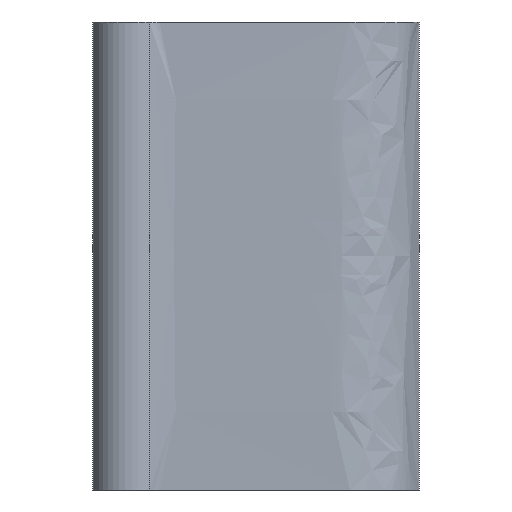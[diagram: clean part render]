
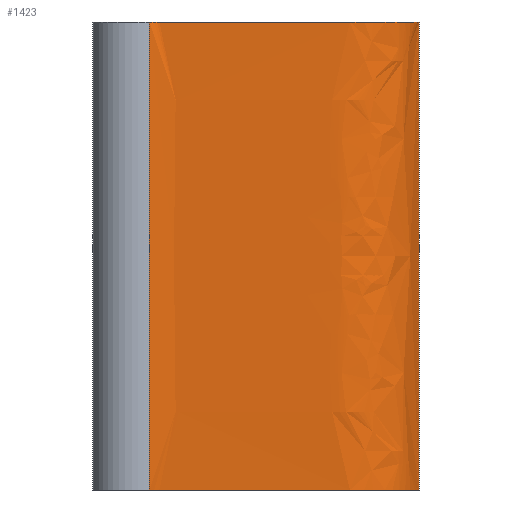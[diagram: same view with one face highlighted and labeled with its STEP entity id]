
A CAD part, front view. The second image highlights one B-rep face of the part: STEP entity #1423.
In plain terms, the highlighted free-form (B-spline) face has degree [3, 1] with [12, 2] control points.
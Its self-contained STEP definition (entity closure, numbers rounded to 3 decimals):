
#23 = CARTESIAN_POINT ( 'NONE',  ( 12.063, -6.04, 0. ) ) ;
#42 = CARTESIAN_POINT ( 'NONE',  ( 50.745, -5.171, 0. ) ) ;
#51 = CARTESIAN_POINT ( 'NONE',  ( 61.743, 7.763, -100. ) ) ;
#57 = CARTESIAN_POINT ( 'NONE',  ( 61.743, 7.763, 0. ) ) ;
#71 = CARTESIAN_POINT ( 'NONE',  ( 59.99, 2.662, 0. ) ) ;
#137 = B_SPLINE_CURVE_WITH_KNOTS ( 'NONE', 3,
 ( #457, #768, #1210, #352, #641, #801, #1808, #1540, #676, #1740, #1759, #1110 ),
 .UNSPECIFIED., .F., .F.,
 ( 4, 1, 1, 1, 1, 1, 1, 1, 1, 4 ),
 ( 0., 0.064, 0.116, 0.392, 0.641, 0.677, 0.756, 0.834, 0.921, 0.984 ),
 .UNSPECIFIED. ) ;
#141 = CARTESIAN_POINT ( 'NONE',  ( 6.313, -5.974, 0. ) ) ;
#159 = EDGE_CURVE ( 'NONE', #1619, #1756, #1711, .T. ) ;
#169 = CARTESIAN_POINT ( 'NONE',  ( 4.124, -6.855, 0. ) ) ;
#173 = CARTESIAN_POINT ( 'NONE',  ( 46.028, -6.02, -100. ) ) ;
#177 = CARTESIAN_POINT ( 'NONE',  ( 46.028, -6.02, 0. ) ) ;
#194 = CARTESIAN_POINT ( 'NONE',  ( 6.313, -5.974, -100. ) ) ;
#203 = DIRECTION ( 'NONE',  ( 0., 0., 1. ) ) ;
#215 = CARTESIAN_POINT ( 'NONE',  ( 61.743, 7.763, -100. ) ) ;
#216 = EDGE_LOOP ( 'NONE', ( #1473, #1298, #1014, #1622 ) ) ;
#267 = EDGE_CURVE ( 'NONE', #1215, #1756, #531, .T. ) ;
#308 = VECTOR ( 'NONE', #642, 1000. ) ;
#314 = CARTESIAN_POINT ( 'NONE',  ( 56.319, -1.864, 0. ) ) ;
#352 = CARTESIAN_POINT ( 'NONE',  ( 12.063, -6.04, -100. ) ) ;
#362 = EDGE_CURVE ( 'NONE', #1457, #1215, #137, .T. ) ;
#371 = CARTESIAN_POINT ( 'NONE',  ( 56.319, -1.864, 0. ) ) ;
#457 = CARTESIAN_POINT ( 'NONE',  ( 4.124, -6.855, -100. ) ) ;
#475 = CARTESIAN_POINT ( 'NONE',  ( 46.028, -6.02, 0. ) ) ;
#508 = CARTESIAN_POINT ( 'NONE',  ( 61.743, 7.763, 0. ) ) ;
#531 = LINE ( 'NONE', #51, #874 ) ;
#595 = CARTESIAN_POINT ( 'NONE',  ( 61.743, 7.763, 0. ) ) ;
#607 = CARTESIAN_POINT ( 'NONE',  ( 4.124, -6.855, 0. ) ) ;
#638 = CARTESIAN_POINT ( 'NONE',  ( 56.319, -1.864, -100. ) ) ;
#641 = CARTESIAN_POINT ( 'NONE',  ( 27.201, -5.969, -100. ) ) ;
#642 = DIRECTION ( 'NONE',  ( 0., 0., 1. ) ) ;
#676 = CARTESIAN_POINT ( 'NONE',  ( 56.319, -1.864, -100. ) ) ;
#741 = LINE ( 'NONE', #1371, #308 ) ;
#768 = CARTESIAN_POINT ( 'NONE',  ( 5.424, -6.073, -100. ) ) ;
#771 = CARTESIAN_POINT ( 'NONE',  ( 59.99, 2.662, 0. ) ) ;
#776 = CARTESIAN_POINT ( 'NONE',  ( 5.424, -6.073, -100. ) ) ;
#801 = CARTESIAN_POINT ( 'NONE',  ( 36.659, -6.032, -100. ) ) ;
#813 = CARTESIAN_POINT ( 'NONE',  ( 50.745, -5.171, 0. ) ) ;
#874 = VECTOR ( 'NONE', #203, 1000. ) ;
#876 = CARTESIAN_POINT ( 'NONE',  ( 5.424, -6.073, 0. ) ) ;
#909 = CARTESIAN_POINT ( 'NONE',  ( 12.063, -6.04, 0. ) ) ;
#917 = CARTESIAN_POINT ( 'NONE',  ( 36.659, -6.032, 0. ) ) ;
#931 = B_SPLINE_SURFACE_WITH_KNOTS ( 'NONE', 3, 1, ( 
 ( #1049, #607 ),
 ( #776, #1784 ),
 ( #194, #1499 ),
 ( #1643, #23 ),
 ( #1793, #1073 ),
 ( #1221, #1366 ),
 ( #173, #475 ),
 ( #1196, #813 ),
 ( #638, #371 ),
 ( #1795, #71 ),
 ( #959, #938 ),
 ( #951, #57 ) ),
 .UNSPECIFIED., .F., .F., .F.,
 ( 4, 1, 1, 1, 1, 1, 1, 1, 1, 4 ),
 ( 2, 2 ),
 ( 0., 0.064, 0.116, 0.392, 0.641, 0.677, 0.756, 0.834, 0.921, 0.984 ),
 ( 0., 1. ),
 .UNSPECIFIED. ) ;
#938 = CARTESIAN_POINT ( 'NONE',  ( 61.365, 6.213, 0. ) ) ;
#951 = CARTESIAN_POINT ( 'NONE',  ( 61.743, 7.763, -100. ) ) ;
#959 = CARTESIAN_POINT ( 'NONE',  ( 61.365, 6.213, -100. ) ) ;
#1014 = ORIENTED_EDGE ( 'NONE', *, *, #362, .T. ) ;
#1049 = CARTESIAN_POINT ( 'NONE',  ( 4.124, -6.855, -100. ) ) ;
#1073 = CARTESIAN_POINT ( 'NONE',  ( 27.201, -5.969, 0. ) ) ;
#1082 = CARTESIAN_POINT ( 'NONE',  ( 4.124, -6.855, -100. ) ) ;
#1110 = CARTESIAN_POINT ( 'NONE',  ( 61.743, 7.763, -100. ) ) ;
#1196 = CARTESIAN_POINT ( 'NONE',  ( 50.745, -5.171, -100. ) ) ;
#1210 = CARTESIAN_POINT ( 'NONE',  ( 6.313, -5.974, -100. ) ) ;
#1215 = VERTEX_POINT ( 'NONE', #215 ) ;
#1221 = CARTESIAN_POINT ( 'NONE',  ( 36.659, -6.032, -100. ) ) ;
#1298 = ORIENTED_EDGE ( 'NONE', *, *, #1458, .F. ) ;
#1332 = FACE_OUTER_BOUND ( 'NONE', #216, .T. ) ;
#1366 = CARTESIAN_POINT ( 'NONE',  ( 36.659, -6.032, 0. ) ) ;
#1371 = CARTESIAN_POINT ( 'NONE',  ( 4.124, -6.855, -100. ) ) ;
#1423 = ADVANCED_FACE ( 'NONE', ( #1332 ), #931, .T. ) ;
#1457 = VERTEX_POINT ( 'NONE', #1082 ) ;
#1458 = EDGE_CURVE ( 'NONE', #1457, #1619, #741, .T. ) ;
#1464 = CARTESIAN_POINT ( 'NONE',  ( 27.201, -5.969, 0. ) ) ;
#1470 = CARTESIAN_POINT ( 'NONE',  ( 61.365, 6.213, 0. ) ) ;
#1472 = CARTESIAN_POINT ( 'NONE',  ( 4.124, -6.855, 0. ) ) ;
#1473 = ORIENTED_EDGE ( 'NONE', *, *, #159, .F. ) ;
#1499 = CARTESIAN_POINT ( 'NONE',  ( 6.313, -5.974, 0. ) ) ;
#1540 = CARTESIAN_POINT ( 'NONE',  ( 50.745, -5.171, -100. ) ) ;
#1619 = VERTEX_POINT ( 'NONE', #1472 ) ;
#1622 = ORIENTED_EDGE ( 'NONE', *, *, #267, .T. ) ;
#1643 = CARTESIAN_POINT ( 'NONE',  ( 12.063, -6.04, -100. ) ) ;
#1711 = B_SPLINE_CURVE_WITH_KNOTS ( 'NONE', 3,
 ( #169, #876, #141, #909, #1464, #917, #177, #42, #314, #771, #1470, #595 ),
 .UNSPECIFIED., .F., .F.,
 ( 4, 1, 1, 1, 1, 1, 1, 1, 1, 4 ),
 ( 0., 0.064, 0.116, 0.392, 0.641, 0.677, 0.756, 0.834, 0.921, 0.984 ),
 .UNSPECIFIED. ) ;
#1740 = CARTESIAN_POINT ( 'NONE',  ( 59.99, 2.662, -100. ) ) ;
#1756 = VERTEX_POINT ( 'NONE', #508 ) ;
#1759 = CARTESIAN_POINT ( 'NONE',  ( 61.365, 6.213, -100. ) ) ;
#1784 = CARTESIAN_POINT ( 'NONE',  ( 5.424, -6.073, 0. ) ) ;
#1793 = CARTESIAN_POINT ( 'NONE',  ( 27.201, -5.969, -100. ) ) ;
#1795 = CARTESIAN_POINT ( 'NONE',  ( 59.99, 2.662, -100. ) ) ;
#1808 = CARTESIAN_POINT ( 'NONE',  ( 46.028, -6.02, -100. ) ) ;
